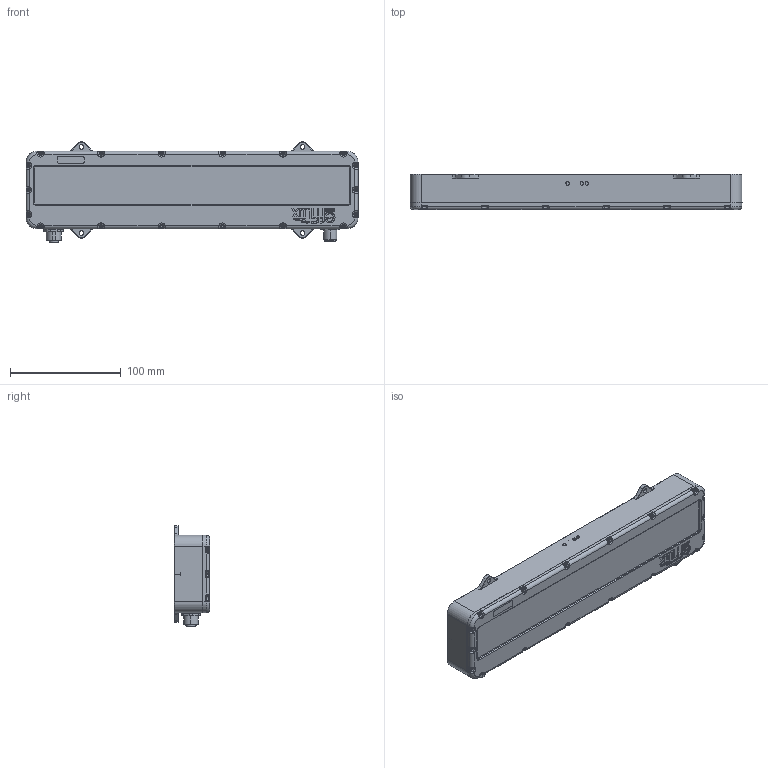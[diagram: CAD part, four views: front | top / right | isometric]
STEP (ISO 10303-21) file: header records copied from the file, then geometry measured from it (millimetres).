
FILE_DESCRIPTION (( 'STEP AP214' ), '1' );
FILE_NAME ('EFFI-SMART-36.STEP', '2016-12-07T11:45:43', ( '' ), ( '' ), 'SwSTEP 2.0', 'SolidWorks 2017', '' );
FILE_SCHEMA (( 'AUTOMOTIVE_DESIGN' ));
Length unit declared in the file: millimetre
Products named in the file (1): EFFI-SMART-36
Bounding box: 300.21 x 32.23 x 90.6 mm (x, y, z)
Surface area: 72549.6 mm2 (no closed solid volume)
Topology: 0 solids, 47 shells, 845 faces, 2972 edges, 2101 vertices
Faces by surface type: cylinder 266, plane 257, bspline 130, cone 127, torus 65
Entity records: 44842 total; most frequent: CARTESIAN_POINT 10979, DIRECTION 5100, ORIENTED_EDGE 4665, EDGE_CURVE 2938, VERTEX_POINT 2101, AXIS2_PLACEMENT_3D 1886, LINE 1328, VECTOR 1328
